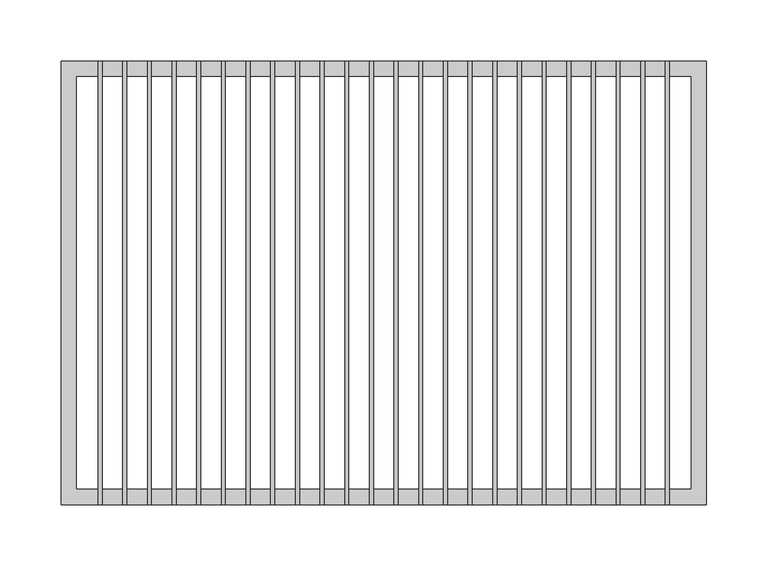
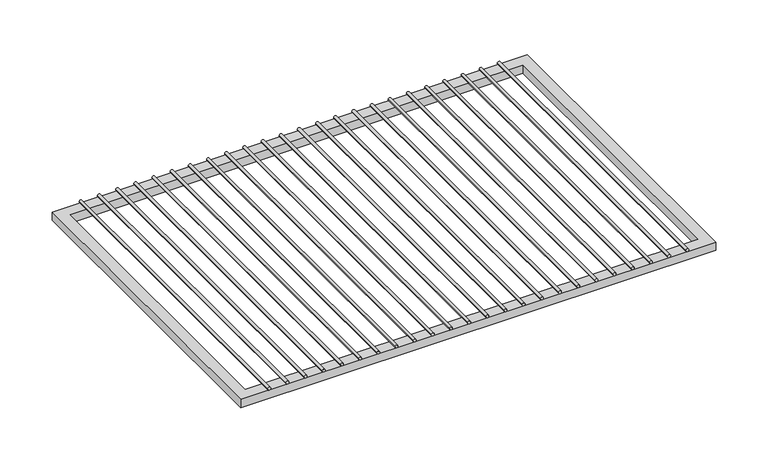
"""IFC4 building model written with IfcOpenShell, lengths in millimetres: furniture geometry, HermanMiller_CoStruc_CO252_CWireShelf : 14D x 20W."""

from ifc_helpers import new_model, si_unit, point, frame, frame_2d, origin, place, context, project, spatial, polyline, circle_curve, trimmed, segment, composite_curve, outline, extrude, source, transform, mapped, element, save


def furniture_2e5dc451(model_context):
    return source(origin(), model_context, "Body", "SweptSolid", [
        extrude(outline(composite_curve([segment(trimmed(circle_curve(frame_2d((1376.3625, -211.6206522)), 1.5875), [point((1376.3625, -213.2081522))], [point((1376.3625, -210.0331522))], False, "CARTESIAN"), True, "CONTINUOUS"), segment(trimmed(circle_curve(frame_2d((1376.3625, -211.6206522)), 1.5875), [point((1376.3625, -210.0331522))], [point((1376.3625, -213.2081522))], False, "CARTESIAN"), True, "CONTINUOUS")], self_intersect=False)), frame((0.0, -180.975, 0.0), z_axis=(0.0, 1.0, 0.0), x_axis=(0.0, 0.0, 1.0)), (0.0, 0.0, 1.0), 361.95),
        extrude(outline(composite_curve([segment(trimmed(circle_curve(frame_2d((1376.3625, -191.4663043)), 1.5875), [point((1376.3625, -193.0538043))], [point((1376.3625, -189.8788043))], False, "CARTESIAN"), True, "CONTINUOUS"), segment(trimmed(circle_curve(frame_2d((1376.3625, -191.4663043)), 1.5875), [point((1376.3625, -189.8788043))], [point((1376.3625, -193.0538043))], False, "CARTESIAN"), True, "CONTINUOUS")], self_intersect=False)), frame((0.0, -180.975, 0.0), z_axis=(0.0, 1.0, 0.0), x_axis=(0.0, 0.0, 1.0)), (0.0, 0.0, 1.0), 361.95),
        extrude(outline(composite_curve([segment(trimmed(circle_curve(frame_2d((1376.3625, -171.3119565)), 1.5875), [point((1376.3625, -172.8994565))], [point((1376.3625, -169.7244565))], False, "CARTESIAN"), True, "CONTINUOUS"), segment(trimmed(circle_curve(frame_2d((1376.3625, -171.3119565)), 1.5875), [point((1376.3625, -169.7244565))], [point((1376.3625, -172.8994565))], False, "CARTESIAN"), True, "CONTINUOUS")], self_intersect=False)), frame((0.0, -180.975, 0.0), z_axis=(0.0, 1.0, 0.0), x_axis=(0.0, 0.0, 1.0)), (0.0, 0.0, 1.0), 361.95),
        extrude(outline(composite_curve([segment(trimmed(circle_curve(frame_2d((1376.3625, -151.1576087)), 1.5875), [point((1376.3625, -152.7451087))], [point((1376.3625, -149.5701087))], False, "CARTESIAN"), True, "CONTINUOUS"), segment(trimmed(circle_curve(frame_2d((1376.3625, -151.1576087)), 1.5875), [point((1376.3625, -149.5701087))], [point((1376.3625, -152.7451087))], False, "CARTESIAN"), True, "CONTINUOUS")], self_intersect=False)), frame((0.0, -180.975, 0.0), z_axis=(0.0, 1.0, 0.0), x_axis=(0.0, 0.0, 1.0)), (0.0, 0.0, 1.0), 361.95),
        extrude(outline(composite_curve([segment(trimmed(circle_curve(frame_2d((1376.3625, -131.0032609)), 1.5875), [point((1376.3625, -132.5907609))], [point((1376.3625, -129.4157609))], False, "CARTESIAN"), True, "CONTINUOUS"), segment(trimmed(circle_curve(frame_2d((1376.3625, -131.0032609)), 1.5875), [point((1376.3625, -129.4157609))], [point((1376.3625, -132.5907609))], False, "CARTESIAN"), True, "CONTINUOUS")], self_intersect=False)), frame((0.0, -180.975, 0.0), z_axis=(0.0, 1.0, 0.0), x_axis=(0.0, 0.0, 1.0)), (0.0, 0.0, 1.0), 361.95),
        extrude(outline(composite_curve([segment(trimmed(circle_curve(frame_2d((1376.3625, -110.848913)), 1.5875), [point((1376.3625, -112.436413))], [point((1376.3625, -109.261413))], False, "CARTESIAN"), True, "CONTINUOUS"), segment(trimmed(circle_curve(frame_2d((1376.3625, -110.848913)), 1.5875), [point((1376.3625, -109.261413))], [point((1376.3625, -112.436413))], False, "CARTESIAN"), True, "CONTINUOUS")], self_intersect=False)), frame((0.0, -180.975, 0.0), z_axis=(0.0, 1.0, 0.0), x_axis=(0.0, 0.0, 1.0)), (0.0, 0.0, 1.0), 361.95),
        extrude(outline(composite_curve([segment(trimmed(circle_curve(frame_2d((1376.3625, -90.6945652)), 1.5875), [point((1376.3625, -92.2820652))], [point((1376.3625, -89.1070652))], False, "CARTESIAN"), True, "CONTINUOUS"), segment(trimmed(circle_curve(frame_2d((1376.3625, -90.6945652)), 1.5875), [point((1376.3625, -89.1070652))], [point((1376.3625, -92.2820652))], False, "CARTESIAN"), True, "CONTINUOUS")], self_intersect=False)), frame((0.0, -180.975, 0.0), z_axis=(0.0, 1.0, 0.0), x_axis=(0.0, 0.0, 1.0)), (0.0, 0.0, 1.0), 361.95),
        extrude(outline(composite_curve([segment(trimmed(circle_curve(frame_2d((1376.3625, -70.5402174)), 1.5875), [point((1376.3625, -72.1277174))], [point((1376.3625, -68.9527174))], False, "CARTESIAN"), True, "CONTINUOUS"), segment(trimmed(circle_curve(frame_2d((1376.3625, -70.5402174)), 1.5875), [point((1376.3625, -68.9527174))], [point((1376.3625, -72.1277174))], False, "CARTESIAN"), True, "CONTINUOUS")], self_intersect=False)), frame((0.0, -180.975, 0.0), z_axis=(0.0, 1.0, 0.0), x_axis=(0.0, 0.0, 1.0)), (0.0, 0.0, 1.0), 361.95),
        extrude(outline(composite_curve([segment(trimmed(circle_curve(frame_2d((1376.3625, -50.3858696)), 1.5875), [point((1376.3625, -51.9733696))], [point((1376.3625, -48.7983696))], False, "CARTESIAN"), True, "CONTINUOUS"), segment(trimmed(circle_curve(frame_2d((1376.3625, -50.3858696)), 1.5875), [point((1376.3625, -48.7983696))], [point((1376.3625, -51.9733696))], False, "CARTESIAN"), True, "CONTINUOUS")], self_intersect=False)), frame((0.0, -180.975, 0.0), z_axis=(0.0, 1.0, 0.0), x_axis=(0.0, 0.0, 1.0)), (0.0, 0.0, 1.0), 361.95),
        extrude(outline(composite_curve([segment(trimmed(circle_curve(frame_2d((1376.3625, -30.2315217)), 1.5875), [point((1376.3625, -31.8190217))], [point((1376.3625, -28.6440217))], False, "CARTESIAN"), True, "CONTINUOUS"), segment(trimmed(circle_curve(frame_2d((1376.3625, -30.2315217)), 1.5875), [point((1376.3625, -28.6440217))], [point((1376.3625, -31.8190217))], False, "CARTESIAN"), True, "CONTINUOUS")], self_intersect=False)), frame((0.0, -180.975, 0.0), z_axis=(0.0, 1.0, 0.0), x_axis=(0.0, 0.0, 1.0)), (0.0, 0.0, 1.0), 361.95),
        extrude(outline(composite_curve([segment(trimmed(circle_curve(frame_2d((1376.3625, -10.0771739)), 1.5875), [point((1376.3625, -11.6646739))], [point((1376.3625, -8.4896739))], False, "CARTESIAN"), True, "CONTINUOUS"), segment(trimmed(circle_curve(frame_2d((1376.3625, -10.0771739)), 1.5875), [point((1376.3625, -8.4896739))], [point((1376.3625, -11.6646739))], False, "CARTESIAN"), True, "CONTINUOUS")], self_intersect=False)), frame((0.0, -180.975, 0.0), z_axis=(0.0, 1.0, 0.0), x_axis=(0.0, 0.0, 1.0)), (0.0, 0.0, 1.0), 361.95),
        extrude(outline(composite_curve([segment(trimmed(circle_curve(frame_2d((1376.3625, 10.0771739)), 1.5875), [point((1376.3625, 8.4896739))], [point((1376.3625, 11.6646739))], False, "CARTESIAN"), True, "CONTINUOUS"), segment(trimmed(circle_curve(frame_2d((1376.3625, 10.0771739)), 1.5875), [point((1376.3625, 11.6646739))], [point((1376.3625, 8.4896739))], False, "CARTESIAN"), True, "CONTINUOUS")], self_intersect=False)), frame((0.0, -180.975, 0.0), z_axis=(0.0, 1.0, 0.0), x_axis=(0.0, 0.0, 1.0)), (0.0, 0.0, 1.0), 361.95),
        extrude(outline(composite_curve([segment(trimmed(circle_curve(frame_2d((1376.3625, 30.2315217)), 1.5875), [point((1376.3625, 28.6440217))], [point((1376.3625, 31.8190217))], False, "CARTESIAN"), True, "CONTINUOUS"), segment(trimmed(circle_curve(frame_2d((1376.3625, 30.2315217)), 1.5875), [point((1376.3625, 31.8190217))], [point((1376.3625, 28.6440217))], False, "CARTESIAN"), True, "CONTINUOUS")], self_intersect=False)), frame((0.0, -180.975, 0.0), z_axis=(0.0, 1.0, 0.0), x_axis=(0.0, 0.0, 1.0)), (0.0, 0.0, 1.0), 361.95),
        extrude(outline(composite_curve([segment(trimmed(circle_curve(frame_2d((1376.3625, 50.3858696)), 1.5875), [point((1376.3625, 48.7983696))], [point((1376.3625, 51.9733696))], False, "CARTESIAN"), True, "CONTINUOUS"), segment(trimmed(circle_curve(frame_2d((1376.3625, 50.3858696)), 1.5875), [point((1376.3625, 51.9733696))], [point((1376.3625, 48.7983696))], False, "CARTESIAN"), True, "CONTINUOUS")], self_intersect=False)), frame((0.0, -180.975, 0.0), z_axis=(0.0, 1.0, 0.0), x_axis=(0.0, 0.0, 1.0)), (0.0, 0.0, 1.0), 361.95),
        extrude(outline(composite_curve([segment(trimmed(circle_curve(frame_2d((1376.3625, 70.5402174)), 1.5875), [point((1376.3625, 68.9527174))], [point((1376.3625, 72.1277174))], False, "CARTESIAN"), True, "CONTINUOUS"), segment(trimmed(circle_curve(frame_2d((1376.3625, 70.5402174)), 1.5875), [point((1376.3625, 72.1277174))], [point((1376.3625, 68.9527174))], False, "CARTESIAN"), True, "CONTINUOUS")], self_intersect=False)), frame((0.0, -180.975, 0.0), z_axis=(0.0, 1.0, 0.0), x_axis=(0.0, 0.0, 1.0)), (0.0, 0.0, 1.0), 361.95),
        extrude(outline(composite_curve([segment(trimmed(circle_curve(frame_2d((1376.3625, 90.6945652)), 1.5875), [point((1376.3625, 89.1070652))], [point((1376.3625, 92.2820652))], False, "CARTESIAN"), True, "CONTINUOUS"), segment(trimmed(circle_curve(frame_2d((1376.3625, 90.6945652)), 1.5875), [point((1376.3625, 92.2820652))], [point((1376.3625, 89.1070652))], False, "CARTESIAN"), True, "CONTINUOUS")], self_intersect=False)), frame((0.0, -180.975, 0.0), z_axis=(0.0, 1.0, 0.0), x_axis=(0.0, 0.0, 1.0)), (0.0, 0.0, 1.0), 361.95),
        extrude(outline(composite_curve([segment(trimmed(circle_curve(frame_2d((1376.3625, 110.848913)), 1.5875), [point((1376.3625, 109.261413))], [point((1376.3625, 112.436413))], False, "CARTESIAN"), True, "CONTINUOUS"), segment(trimmed(circle_curve(frame_2d((1376.3625, 110.848913)), 1.5875), [point((1376.3625, 112.436413))], [point((1376.3625, 109.261413))], False, "CARTESIAN"), True, "CONTINUOUS")], self_intersect=False)), frame((0.0, -180.975, 0.0), z_axis=(0.0, 1.0, 0.0), x_axis=(0.0, 0.0, 1.0)), (0.0, 0.0, 1.0), 361.95),
        extrude(outline(composite_curve([segment(trimmed(circle_curve(frame_2d((1376.3625, 131.0032609)), 1.5875), [point((1376.3625, 129.4157609))], [point((1376.3625, 132.5907609))], False, "CARTESIAN"), True, "CONTINUOUS"), segment(trimmed(circle_curve(frame_2d((1376.3625, 131.0032609)), 1.5875), [point((1376.3625, 132.5907609))], [point((1376.3625, 129.4157609))], False, "CARTESIAN"), True, "CONTINUOUS")], self_intersect=False)), frame((0.0, -180.975, 0.0), z_axis=(0.0, 1.0, 0.0), x_axis=(0.0, 0.0, 1.0)), (0.0, 0.0, 1.0), 361.95),
        extrude(outline(composite_curve([segment(trimmed(circle_curve(frame_2d((1376.3625, 151.1576087)), 1.5875), [point((1376.3625, 149.5701087))], [point((1376.3625, 152.7451087))], False, "CARTESIAN"), True, "CONTINUOUS"), segment(trimmed(circle_curve(frame_2d((1376.3625, 151.1576087)), 1.5875), [point((1376.3625, 152.7451087))], [point((1376.3625, 149.5701087))], False, "CARTESIAN"), True, "CONTINUOUS")], self_intersect=False)), frame((0.0, -180.975, 0.0), z_axis=(0.0, 1.0, 0.0), x_axis=(0.0, 0.0, 1.0)), (0.0, 0.0, 1.0), 361.95),
        extrude(outline(composite_curve([segment(trimmed(circle_curve(frame_2d((1376.3625, 171.3119565)), 1.5875), [point((1376.3625, 169.7244565))], [point((1376.3625, 172.8994565))], False, "CARTESIAN"), True, "CONTINUOUS"), segment(trimmed(circle_curve(frame_2d((1376.3625, 171.3119565)), 1.5875), [point((1376.3625, 172.8994565))], [point((1376.3625, 169.7244565))], False, "CARTESIAN"), True, "CONTINUOUS")], self_intersect=False)), frame((0.0, -180.975, 0.0), z_axis=(0.0, 1.0, 0.0), x_axis=(0.0, 0.0, 1.0)), (0.0, 0.0, 1.0), 361.95),
        extrude(outline(composite_curve([segment(trimmed(circle_curve(frame_2d((1376.3625, 191.4663043)), 1.5875), [point((1376.3625, 189.8788043))], [point((1376.3625, 193.0538043))], False, "CARTESIAN"), True, "CONTINUOUS"), segment(trimmed(circle_curve(frame_2d((1376.3625, 191.4663043)), 1.5875), [point((1376.3625, 193.0538043))], [point((1376.3625, 189.8788043))], False, "CARTESIAN"), True, "CONTINUOUS")], self_intersect=False)), frame((0.0, -180.975, 0.0), z_axis=(0.0, 1.0, 0.0), x_axis=(0.0, 0.0, 1.0)), (0.0, 0.0, 1.0), 361.95),
        extrude(outline(composite_curve([segment(trimmed(circle_curve(frame_2d((1376.3625, 211.6206522)), 1.5875), [point((1376.3625, 210.0331522))], [point((1376.3625, 213.2081522))], False, "CARTESIAN"), True, "CONTINUOUS"), segment(trimmed(circle_curve(frame_2d((1376.3625, 211.6206522)), 1.5875), [point((1376.3625, 213.2081522))], [point((1376.3625, 210.0331522))], False, "CARTESIAN"), True, "CONTINUOUS")], self_intersect=False)), frame((0.0, -180.975, 0.0), z_axis=(0.0, 1.0, 0.0), x_axis=(0.0, 0.0, 1.0)), (0.0, 0.0, 1.0), 361.95),
        extrude(outline(composite_curve([segment(trimmed(circle_curve(frame_2d((1376.3625, -231.775)), 1.5875), [point((1376.3625, -233.3625))], [point((1376.3625, -230.1875))], False, "CARTESIAN"), True, "CONTINUOUS"), segment(trimmed(circle_curve(frame_2d((1376.3625, -231.775)), 1.5875), [point((1376.3625, -230.1875))], [point((1376.3625, -233.3625))], False, "CARTESIAN"), True, "CONTINUOUS")], self_intersect=False)), frame((0.0, -180.975, 0.0), z_axis=(0.0, 1.0, 0.0), x_axis=(0.0, 0.0, 1.0)), (0.0, 0.0, 1.0), 361.95),
        extrude(outline(composite_curve([segment(trimmed(circle_curve(frame_2d((1376.3625, 231.775)), 1.5875), [point((1376.3625, 230.1875))], [point((1376.3625, 233.3625))], False, "CARTESIAN"), True, "CONTINUOUS"), segment(trimmed(circle_curve(frame_2d((1376.3625, 231.775)), 1.5875), [point((1376.3625, 233.3625))], [point((1376.3625, 230.1875))], False, "CARTESIAN"), True, "CONTINUOUS")], self_intersect=False)), frame((0.0, -180.975, 0.0), z_axis=(0.0, 1.0, 0.0), x_axis=(0.0, 0.0, 1.0)), (0.0, 0.0, 1.0), 361.95),
        extrude(outline(polyline([(-263.525, -180.975), (-263.525, 180.975), (263.525, 180.975), (263.525, -180.975), (-263.525, -180.975)]), holes=[polyline([(-250.825, -168.275), (250.825, -168.275), (250.825, 168.275), (-250.825, 168.275), (-250.825, -168.275)])]), frame((0.0, 0.0, 1365.25), z_axis=(0.0, 0.0, 1.0), x_axis=(1.0, 0.0, 0.0)), (0.0, 0.0, 1.0), 9.525),
    ])


if __name__ == "__main__":
    model = new_model("IFC4")
    model_context = context("Model", 3, world=origin())
    ifc_project = project(units=[si_unit("LENGTHUNIT", "METRE", prefix="MILLI")], contexts=[model_context])
    site = spatial("IfcSite", under=ifc_project)
    building = spatial("IfcBuilding", under=site)
    placement = place(None, origin())
    furniture_shape = furniture_2e5dc451(model_context)
    element("IfcFurniture", 1, ObjectType="HermanMiller_CoStruc_CO252_CWireShelf : 14D x 20W", at=placement, inside=building, context=model_context, shape_type="MappedRepresentation", body=[
        mapped(furniture_shape, transform((0.0, 0.0, 0.0), x_axis=(1.0, 0.0, 0.0), y_axis=(0.0, 1.0, 0.0), z_axis=(0.0, 0.0, 1.0))),
    ])
    save(model, "model.ifc")
